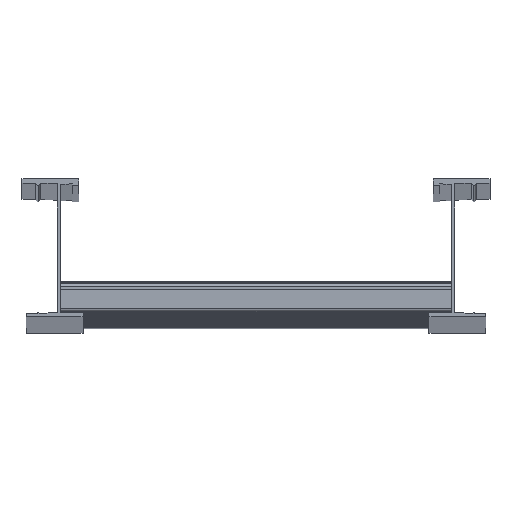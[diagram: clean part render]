
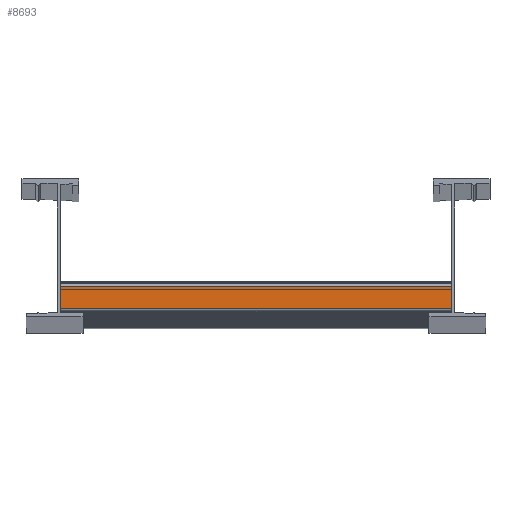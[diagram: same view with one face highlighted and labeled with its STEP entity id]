
A CAD part, top view. The second image highlights one B-rep face of the part: STEP entity #8693.
In plain terms, the highlighted planar face has unit normal (0, 0, 1).
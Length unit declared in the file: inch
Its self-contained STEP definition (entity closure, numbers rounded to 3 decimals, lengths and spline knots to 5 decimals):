
#6378=DIRECTION('',(0.,-1.,0.));
#6379=VECTOR('',#6378,0.668);
#6380=CARTESIAN_POINT('',(6.,0.809,0.9));
#6381=LINE('',#6380,#6379);
#6531=DIRECTION('',(0.,-1.,0.));
#6532=VECTOR('',#6531,0.668);
#6533=CARTESIAN_POINT('',(-6.,0.809,0.9));
#6534=LINE('',#6533,#6532);
#6995=DIRECTION('',(-1.,0.,0.));
#6996=VECTOR('',#6995,12.);
#6997=CARTESIAN_POINT('',(6.,0.809,0.9));
#6998=LINE('',#6997,#6996);
#6999=DIRECTION('',(-1.,0.,0.));
#7000=VECTOR('',#6999,12.);
#7001=CARTESIAN_POINT('',(6.,0.141,0.9));
#7002=LINE('',#7001,#7000);
#7727=CARTESIAN_POINT('',(6.,0.809,0.9));
#7728=VERTEX_POINT('',#7727);
#7729=CARTESIAN_POINT('',(6.,0.141,0.9));
#7730=VERTEX_POINT('',#7729);
#7779=CARTESIAN_POINT('',(-6.,0.809,0.9));
#7780=VERTEX_POINT('',#7779);
#7781=CARTESIAN_POINT('',(-6.,0.141,0.9));
#7782=VERTEX_POINT('',#7781);
#8681=CARTESIAN_POINT('',(6.,0.809,0.9));
#8682=DIRECTION('',(0.,0.,1.));
#8683=DIRECTION('',(0.,-1.,0.));
#8684=AXIS2_PLACEMENT_3D('',#8681,#8682,#8683);
#8685=PLANE('',#8684);
#8686=ORIENTED_EDGE('',*,*,#8182,.T.);
#8688=ORIENTED_EDGE('',*,*,#8687,.T.);
#8689=ORIENTED_EDGE('',*,*,#8294,.F.);
#8690=ORIENTED_EDGE('',*,*,#8674,.F.);
#8691=EDGE_LOOP('',(#8686,#8688,#8689,#8690));
#8692=FACE_OUTER_BOUND('',#8691,.F.);
#8693=ADVANCED_FACE('',(#8692),#8685,.T.);
#8182=EDGE_CURVE('',#7728,#7730,#6381,.T.);
#8294=EDGE_CURVE('',#7780,#7782,#6534,.T.);
#8674=EDGE_CURVE('',#7728,#7780,#6998,.T.);
#8687=EDGE_CURVE('',#7730,#7782,#7002,.T.);
